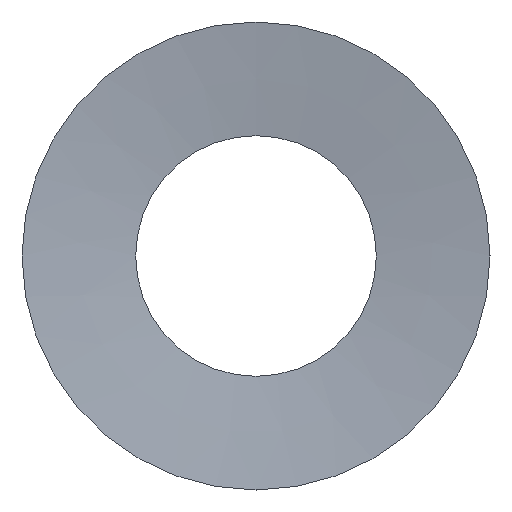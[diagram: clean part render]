
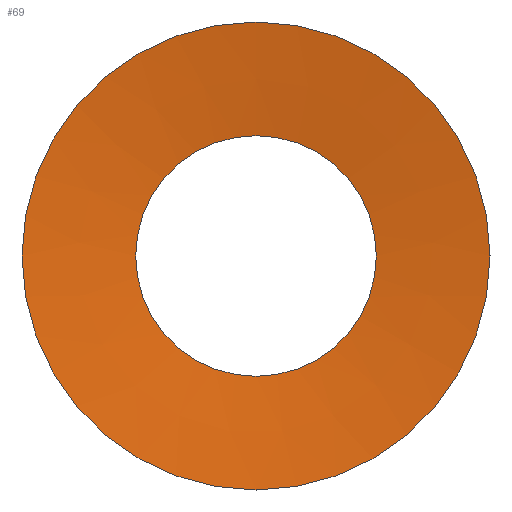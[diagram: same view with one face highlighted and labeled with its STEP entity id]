
A CAD part, front view. The second image highlights one B-rep face of the part: STEP entity #69.
In plain terms, the highlighted conical face has half-angle 82.51 degrees and reference radius 5.3 mm.
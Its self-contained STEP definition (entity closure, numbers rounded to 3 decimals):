
#19=FACE_OUTER_BOUND('',#23,.T.);
#23=EDGE_LOOP('',(#57,#58,#59,#60));
#27=LINE('',#137,#31);
#31=VECTOR('',#118,5.3);
#35=CIRCLE('',#98,3.6);
#36=CIRCLE('',#100,7.);
#39=VERTEX_POINT('',#132);
#40=VERTEX_POINT('',#136);
#45=EDGE_CURVE('',#39,#39,#35,.T.);
#46=EDGE_CURVE('',#39,#40,#27,.T.);
#47=EDGE_CURVE('',#40,#40,#36,.T.);
#57=ORIENTED_EDGE('',*,*,#45,.T.);
#58=ORIENTED_EDGE('',*,*,#46,.T.);
#59=ORIENTED_EDGE('',*,*,#47,.F.);
#60=ORIENTED_EDGE('',*,*,#46,.F.);
#66=CONICAL_SURFACE('',#99,5.3,1.44);
#69=ADVANCED_FACE('',(#19),#66,.F.);
#98=AXIS2_PLACEMENT_3D('',#134,#114,#115);
#99=AXIS2_PLACEMENT_3D('',#135,#116,#117);
#100=AXIS2_PLACEMENT_3D('',#138,#119,#120);
#114=DIRECTION('center_axis',(0.,1.,0.));
#115=DIRECTION('ref_axis',(1.,0.,0.));
#116=DIRECTION('center_axis',(0.,-1.,0.));
#117=DIRECTION('ref_axis',(0.,0.,-1.));
#118=DIRECTION('',(0.,-0.13,0.991));
#119=DIRECTION('center_axis',(0.,1.,0.));
#120=DIRECTION('ref_axis',(1.,0.,0.));
#132=CARTESIAN_POINT('',(0.,0.447,3.6));
#134=CARTESIAN_POINT('Origin',(0.,0.447,0.));
#135=CARTESIAN_POINT('Origin',(0.,0.223,0.));
#136=CARTESIAN_POINT('',(0.,0.,7.));
#137=CARTESIAN_POINT('',(0.,0.223,5.3));
#138=CARTESIAN_POINT('Origin',(0.,0.,0.));
